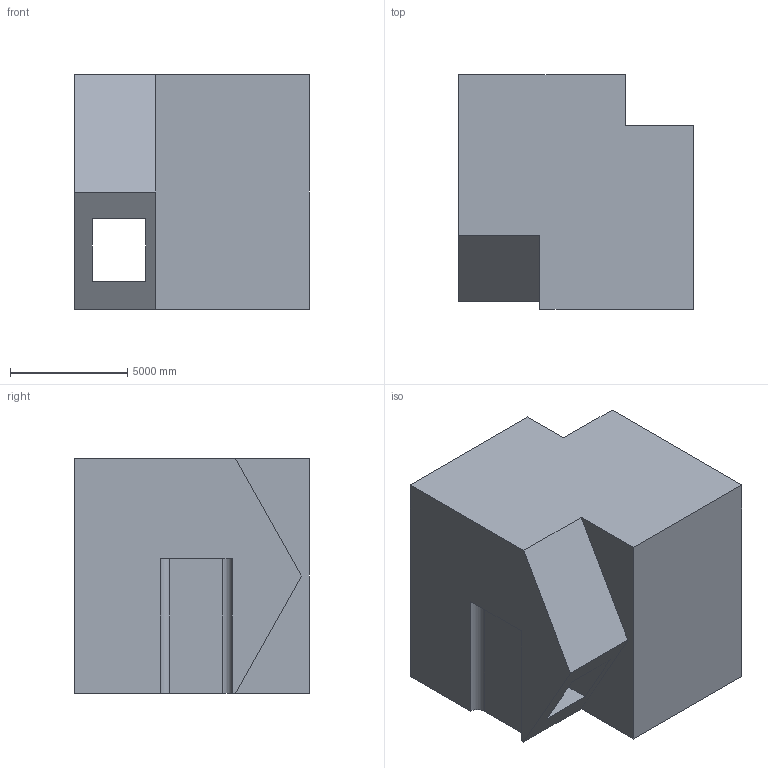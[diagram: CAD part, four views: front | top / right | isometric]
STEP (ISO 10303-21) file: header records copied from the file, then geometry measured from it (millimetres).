
FILE_DESCRIPTION (( 'STEP AP203' ), '1' );
FILE_NAME ('50.STEP', '2022-09-02T13:51:16', ( 'user' ), ( '' ), 'SwSTEP 2.0', 'SolidWorks 2021', '' );
FILE_SCHEMA (( 'CONFIG_CONTROL_DESIGN' ));
Length unit declared in the file: centimetre
Products named in the file (1): 50
Bounding box: 10000 x 10000 x 10000 mm (x, y, z)
Volume: 811564147574.4 mm3; surface area: 670978679.6 mm2
Topology: 1 solids, 1 shells, 29 faces, 75 edges, 50 vertices
Faces by surface type: plane 23, cylinder 6
Entity records: 962 total; most frequent: CARTESIAN_POINT 155, ORIENTED_EDGE 150, DIRECTION 147, EDGE_CURVE 75, LINE 63, VECTOR 63, VERTEX_POINT 50, AXIS2_PLACEMENT_3D 42
